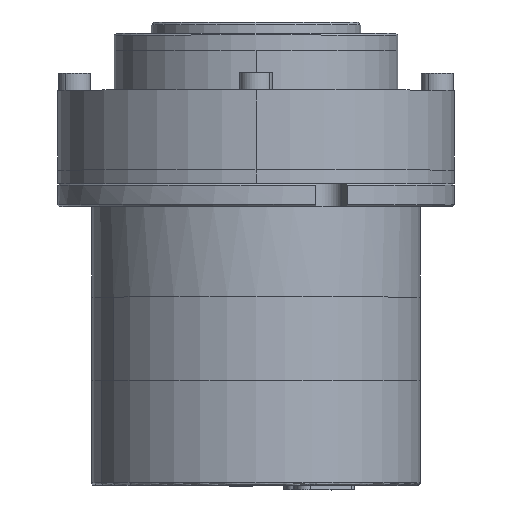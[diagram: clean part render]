
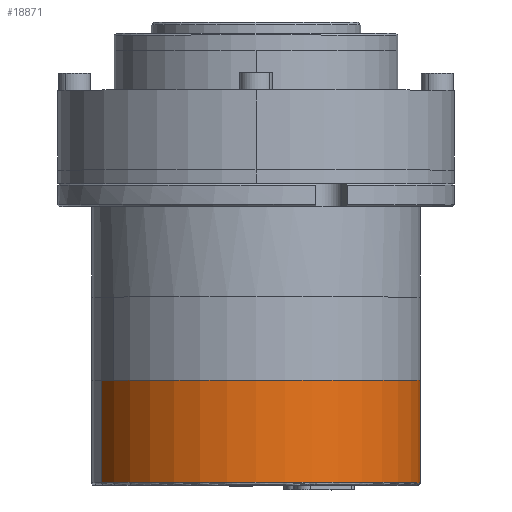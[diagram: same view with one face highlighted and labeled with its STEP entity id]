
A CAD part, top view. The second image highlights one B-rep face of the part: STEP entity #18871.
In plain terms, the highlighted cylindrical face has radius 29 mm (diameter 58 mm), a partial arc.
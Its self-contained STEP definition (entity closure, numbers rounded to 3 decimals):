
#229 = EDGE_LOOP ( 'NONE', ( #16764, #8872, #10128, #13580 ) ) ;
#419 = CARTESIAN_POINT ( 'NONE',  ( -2.272, -82.968, 0. ) ) ;
#556 = EDGE_CURVE ( 'NONE', #9755, #14876, #3186, .T. ) ;
#2967 = FACE_OUTER_BOUND ( 'NONE', #229, .T. ) ;
#3186 = LINE ( 'NONE', #18666, #19160 ) ;
#4064 = LINE ( 'NONE', #15447, #6914 ) ;
#4521 = DIRECTION ( 'NONE',  ( 0., -1., 0. ) ) ;
#4674 = VERTEX_POINT ( 'NONE', #19743 ) ;
#5354 = AXIS2_PLACEMENT_3D ( 'NONE', #17116, #24920, #7515 ) ;
#6914 = VECTOR ( 'NONE', #23255, 1000. ) ;
#7515 = DIRECTION ( 'NONE',  ( 0.94, 0., -0.342 ) ) ;
#8598 = EDGE_CURVE ( 'NONE', #20735, #14876, #21741, .T. ) ;
#8872 = ORIENTED_EDGE ( 'NONE', *, *, #18485, .T. ) ;
#9121 = DIRECTION ( 'NONE',  ( 0., -1., 0. ) ) ;
#9508 = CARTESIAN_POINT ( 'NONE',  ( -29.523, -60.674, 9.919 ) ) ;
#9632 = DIRECTION ( 'NONE',  ( 0.94, 0., -0.342 ) ) ;
#9755 = VERTEX_POINT ( 'NONE', #16275 ) ;
#10128 = ORIENTED_EDGE ( 'NONE', *, *, #8598, .T. ) ;
#10870 = DIRECTION ( 'NONE',  ( 0., -1., 0. ) ) ;
#12195 = AXIS2_PLACEMENT_3D ( 'NONE', #419, #4521, #16035 ) ;
#13034 = CIRCLE ( 'NONE', #15077, 29. ) ;
#13580 = ORIENTED_EDGE ( 'NONE', *, *, #556, .F. ) ;
#14876 = VERTEX_POINT ( 'NONE', #23579 ) ;
#15077 = AXIS2_PLACEMENT_3D ( 'NONE', #23187, #9121, #9632 ) ;
#15447 = CARTESIAN_POINT ( 'NONE',  ( -29.523, -82.968, 9.919 ) ) ;
#16035 = DIRECTION ( 'NONE',  ( 0.94, 0., -0.342 ) ) ;
#16275 = CARTESIAN_POINT ( 'NONE',  ( 24.979, -42.674, -9.919 ) ) ;
#16764 = ORIENTED_EDGE ( 'NONE', *, *, #19549, .T. ) ;
#17116 = CARTESIAN_POINT ( 'NONE',  ( -2.272, -60.674, 0. ) ) ;
#17953 = CYLINDRICAL_SURFACE ( 'NONE', #12195, 29. ) ;
#18485 = EDGE_CURVE ( 'NONE', #4674, #20735, #4064, .T. ) ;
#18666 = CARTESIAN_POINT ( 'NONE',  ( 24.979, -82.968, -9.919 ) ) ;
#18871 = ADVANCED_FACE ( 'NONE', ( #2967 ), #17953, .T. ) ;
#19160 = VECTOR ( 'NONE', #10870, 1000. ) ;
#19549 = EDGE_CURVE ( 'NONE', #9755, #4674, #13034, .T. ) ;
#19743 = CARTESIAN_POINT ( 'NONE',  ( -29.523, -42.674, 9.919 ) ) ;
#20735 = VERTEX_POINT ( 'NONE', #9508 ) ;
#21741 = CIRCLE ( 'NONE', #5354, 29. ) ;
#23187 = CARTESIAN_POINT ( 'NONE',  ( -2.272, -42.674, 0. ) ) ;
#23255 = DIRECTION ( 'NONE',  ( 0., -1., 0. ) ) ;
#23579 = CARTESIAN_POINT ( 'NONE',  ( 24.979, -60.674, -9.919 ) ) ;
#24920 = DIRECTION ( 'NONE',  ( 0., 1., 0. ) ) ;
